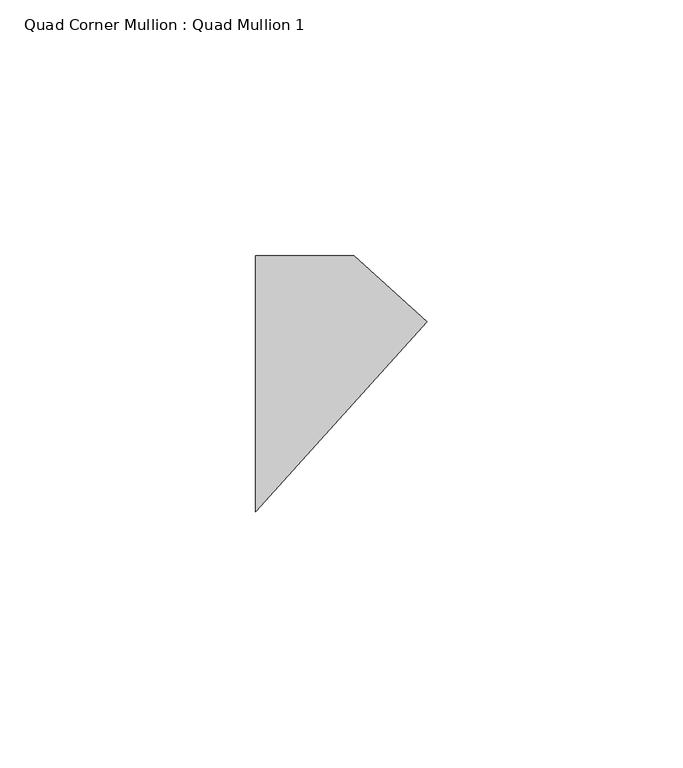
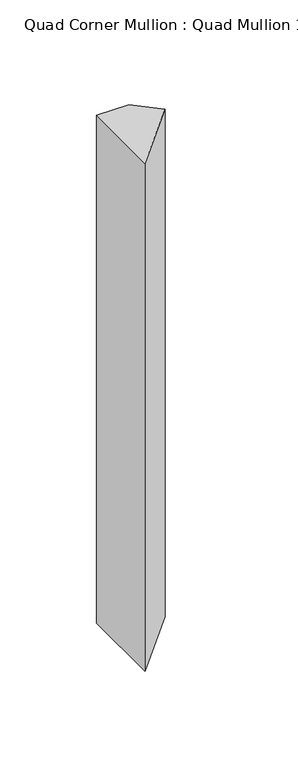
"""IFC4 building model written with IfcOpenShell, lengths in millimetres: member geometry, Quad Corner Mullion : Quad Mullion 1."""

from ifc_helpers import new_model, si_unit, frame, origin, place, context, project, spatial, polyline, outline, extrude, source, transform, mapped, element, save


def quad_corner_mullion_quad_mullion_1_4b3b517b(model_context):
    return source(origin(), model_context, "Body", "SweptSolid", [
        extrude(outline(polyline([(23.8599294, 12.1572413), (-9.5966009, -25.0), (-9.5966009, 25.0), (9.5966009, 25.0), (23.8599294, 12.1572413)])), frame((0.0, 0.0, -320.0), z_axis=(0.0, 0.0, 1.0), x_axis=(1.0, 0.0, 0.0)), (0.0, 0.0, 1.0), 320.0),
    ])


if __name__ == "__main__":
    model = new_model("IFC4")
    model_context = context("Model", 3, world=origin())
    ifc_project = project(units=[si_unit("LENGTHUNIT", "METRE", prefix="MILLI")], contexts=[model_context])
    site = spatial("IfcSite", under=ifc_project)
    building = spatial("IfcBuilding", under=site)
    placement = place(None, origin())
    quad_corner_mullion_quad_mullion_1_shape = quad_corner_mullion_quad_mullion_1_4b3b517b(model_context)
    element("IfcMember", 1, ObjectType="Quad Corner Mullion : Quad Mullion 1", at=placement, inside=building, context=model_context, shape_type="MappedRepresentation", body=[
        mapped(quad_corner_mullion_quad_mullion_1_shape, transform((0.0, 0.0, 0.0), x_axis=(1.0, 0.0, 0.0), y_axis=(0.0, 1.0, 0.0), z_axis=(0.0, 0.0, 1.0))),
    ])
    save(model, "model.ifc")
